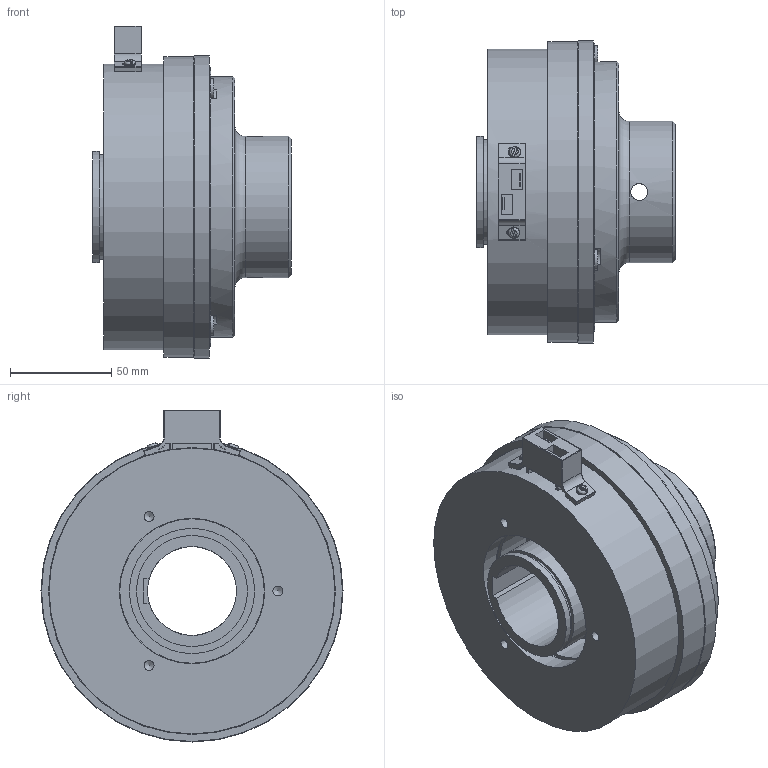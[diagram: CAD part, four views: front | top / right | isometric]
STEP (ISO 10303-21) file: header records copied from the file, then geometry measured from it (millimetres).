
FILE_DESCRIPTION(/* description */ (''),/* implementation_level */ '2;1');
FILE_NAME(/* name */ 'X:\INVENTOR\DISEGNI\08_Freni_Friz_Elettmag_Monodisco\08_26 EMSL_DF\EMSL_DF STEP\Tipo BM\08_26_150_22 EMSL150_DF-BM-ME_Con@STEP.stp',/* time_stamp */ '2018-09-07T08:38:56+02:00',/* author */ ('stefano'),/* organization */ (''),/* preprocessor_version */ 'ST-DEVELOPER v17',/* originating_system */ 'Autodesk Inventor 2018',/* authorisation */ '');
FILE_SCHEMA (('AUTOMOTIVE_DESIGN { 1 0 10303 214 3 1 1 }'));
Length unit declared in the file: millimetre
Products named in the file (1): 08_26_150_22 EMSL150_DF-BM-ME - Spina_Substitute_1
Bounding box: 98.5 x 149.5 x 164.35 mm (x, y, z)
Volume: 707296.3 mm3; surface area: 194439.8 mm2
Topology: 3 solids, 3 shells, 452 faces, 1227 edges, 807 vertices
Faces by surface type: cylinder 237, plane 139, torus 35, cone 21, sphere 20
Full cylindrical faces by diameter (mm): 2.2 x3, 4.917 x3, 5.6 x2, 6 x1, 6.1 x6, 6.647 x3, 7.5 x3, 8 x3, 8.1 x3, 8.376 x2, 10 x6, 11 x3, 13 x3, 52 x1, 55 x2, 62 x1, 70 x1, 71.5 x1, 72 x2, 75 x1, 95 x1, 96 x2, 126 x2, 129 x1, 132 x1, 141.5 x1, 142 x1, 149 x1, 149.5 x1
Entity records: 15531 total; most frequent: CARTESIAN_POINT 3058, DIRECTION 2722, ORIENTED_EDGE 2400, EDGE_CURVE 1200, AXIS2_PLACEMENT_3D 1134, VERTEX_POINT 807, CIRCLE 681, EDGE_LOOP 567
